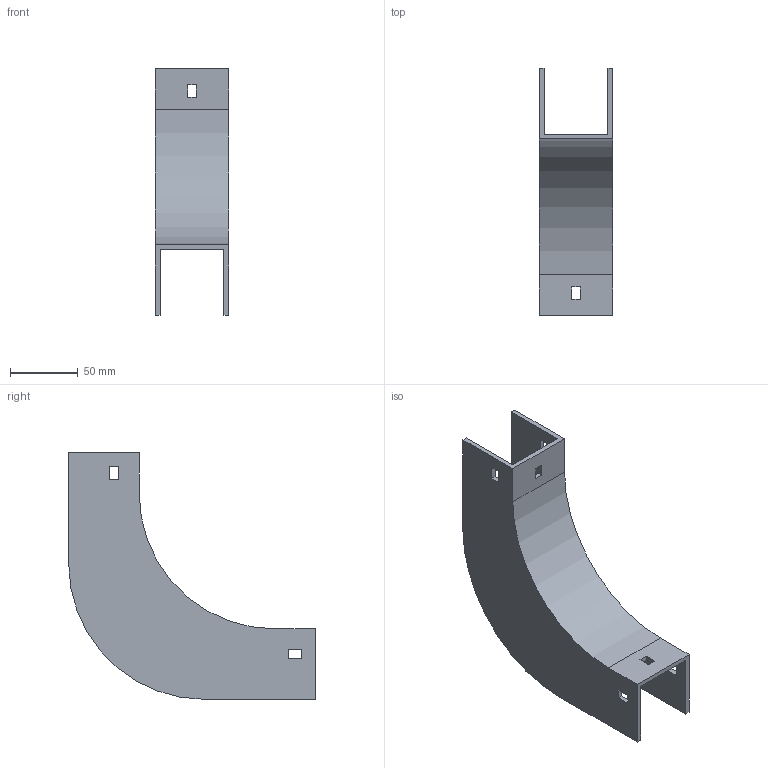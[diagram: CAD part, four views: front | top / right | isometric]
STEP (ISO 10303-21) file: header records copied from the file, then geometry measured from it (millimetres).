
FILE_DESCRIPTION (( 'STEP AP214' ), '1' );
FILE_NAME ('33F1B050.step', '2025-02-21T12:52:09', ( '' ), ( '' ), 'SwSTEP 2.0', 'SolidWorks 2023', '' );
FILE_SCHEMA (( 'AUTOMOTIVE_DESIGN' ));
Length unit declared in the file: millimetre
Products named in the file (1): 33F1B050
Bounding box: 54 x 182 x 182 mm (x, y, z)
Volume: 148340.3 mm3; surface area: 88744.2 mm2
Topology: 1 solids, 1 shells, 42 faces, 120 edges, 80 vertices
Faces by surface type: plane 38, cylinder 4
Entity records: 1399 total; most frequent: CARTESIAN_POINT 243, ORIENTED_EDGE 240, DIRECTION 214, EDGE_CURVE 120, VECTOR 112, LINE 112, VERTEX_POINT 80, EDGE_LOOP 54
